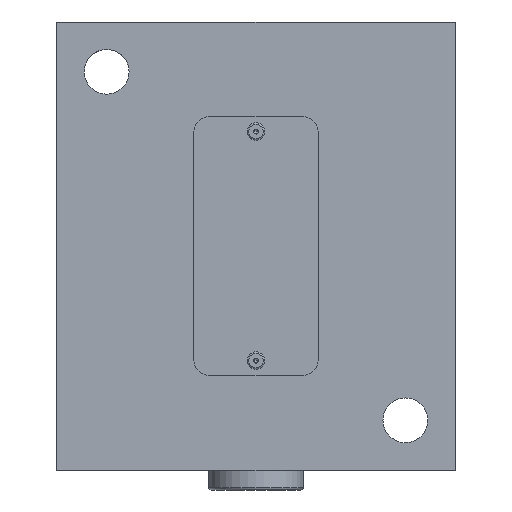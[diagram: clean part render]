
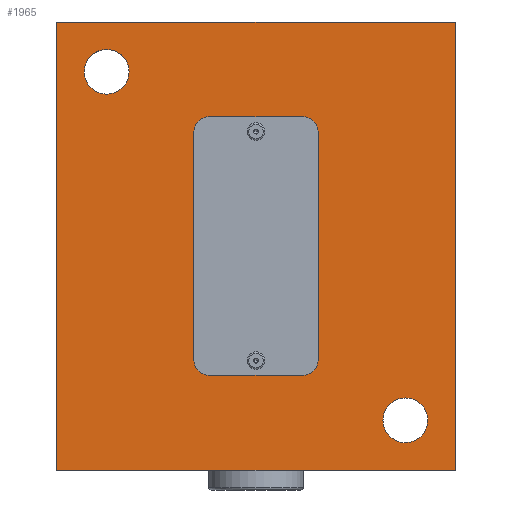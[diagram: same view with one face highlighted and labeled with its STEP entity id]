
A CAD part, front view. The second image highlights one B-rep face of the part: STEP entity #1965.
In plain terms, the highlighted planar face has unit normal (0, -1, 0).
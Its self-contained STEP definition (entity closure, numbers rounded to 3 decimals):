
#51=DIRECTION('',(1.,0.,0.));
#52=VECTOR('',#51,80.);
#53=CARTESIAN_POINT('',(-40.,-25.,0.));
#54=LINE('',#53,#52);
#95=DIRECTION('',(0.,0.,1.));
#96=VECTOR('',#95,90.);
#97=CARTESIAN_POINT('',(-40.,-25.,0.));
#98=LINE('',#97,#96);
#102=CARTESIAN_POINT('',(-30.,-25.,80.));
#103=DIRECTION('',(0.,-1.,0.));
#104=DIRECTION('',(1.,0.,0.));
#105=AXIS2_PLACEMENT_3D('',#102,#103,#104);
#110=CARTESIAN_POINT('',(-30.,-25.,80.));
#111=DIRECTION('',(0.,-1.,0.));
#112=DIRECTION('',(-1.,0.,0.));
#113=AXIS2_PLACEMENT_3D('',#110,#111,#112);
#118=CARTESIAN_POINT('',(30.,-25.,10.));
#119=DIRECTION('',(0.,-1.,0.));
#120=DIRECTION('',(1.,0.,0.));
#121=AXIS2_PLACEMENT_3D('',#118,#119,#120);
#126=CARTESIAN_POINT('',(30.,-25.,10.));
#127=DIRECTION('',(0.,-1.,0.));
#128=DIRECTION('',(-1.,0.,0.));
#129=AXIS2_PLACEMENT_3D('',#126,#127,#128);
#134=CARTESIAN_POINT('',(0.,-25.,68.));
#135=DIRECTION('',(0.,-1.,0.));
#136=DIRECTION('',(-1.,0.,0.));
#137=AXIS2_PLACEMENT_3D('',#134,#135,#136);
#142=CARTESIAN_POINT('',(0.,-25.,68.));
#143=DIRECTION('',(0.,-1.,0.));
#144=DIRECTION('',(1.,0.,0.));
#145=AXIS2_PLACEMENT_3D('',#142,#143,#144);
#150=CARTESIAN_POINT('',(0.,-25.,22.));
#151=DIRECTION('',(0.,-1.,0.));
#152=DIRECTION('',(-1.,0.,0.));
#153=AXIS2_PLACEMENT_3D('',#150,#151,#152);
#158=CARTESIAN_POINT('',(0.,-25.,22.));
#159=DIRECTION('',(0.,-1.,0.));
#160=DIRECTION('',(1.,0.,0.));
#161=AXIS2_PLACEMENT_3D('',#158,#159,#160);
#228=DIRECTION('',(0.,0.,1.));
#229=VECTOR('',#228,90.);
#230=CARTESIAN_POINT('',(40.,-25.,0.));
#231=LINE('',#230,#229);
#251=DIRECTION('',(1.,0.,0.));
#252=VECTOR('',#251,80.);
#253=CARTESIAN_POINT('',(-40.,-25.,90.));
#254=LINE('',#253,#252);
#1705=CARTESIAN_POINT('',(-40.,-25.,0.));
#1706=CARTESIAN_POINT('',(40.,-25.,0.));
#1707=VERTEX_POINT('',#1705);
#1708=VERTEX_POINT('',#1706);
#1713=CARTESIAN_POINT('',(-40.,-25.,90.));
#1714=CARTESIAN_POINT('',(40.,-25.,90.));
#1715=VERTEX_POINT('',#1713);
#1716=VERTEX_POINT('',#1714);
#1757=CARTESIAN_POINT('',(-25.5,-25.,80.));
#1758=CARTESIAN_POINT('',(-34.5,-25.,80.));
#1759=VERTEX_POINT('',#1757);
#1760=VERTEX_POINT('',#1758);
#1779=CARTESIAN_POINT('',(-1.,-25.,68.));
#1780=CARTESIAN_POINT('',(1.,-25.,68.));
#1781=VERTEX_POINT('',#1779);
#1782=VERTEX_POINT('',#1780);
#1789=CARTESIAN_POINT('',(-1.,-25.,22.));
#1790=CARTESIAN_POINT('',(1.,-25.,22.));
#1791=VERTEX_POINT('',#1789);
#1792=VERTEX_POINT('',#1790);
#1803=CARTESIAN_POINT('',(34.5,-25.,10.));
#1804=CARTESIAN_POINT('',(25.5,-25.,10.));
#1805=VERTEX_POINT('',#1803);
#1806=VERTEX_POINT('',#1804);
#1927=CARTESIAN_POINT('',(-40.,-25.,0.));
#1928=DIRECTION('',(0.,-1.,0.));
#1929=DIRECTION('',(1.,0.,0.));
#1930=AXIS2_PLACEMENT_3D('',#1927,#1928,#1929);
#1931=PLANE('',#1930);
#1932=ORIENTED_EDGE('',*,*,#1898,.F.);
#1934=ORIENTED_EDGE('',*,*,#1933,.T.);
#1936=ORIENTED_EDGE('',*,*,#1935,.T.);
#1938=ORIENTED_EDGE('',*,*,#1937,.F.);
#1939=EDGE_LOOP('',(#1932,#1934,#1936,#1938));
#1940=FACE_OUTER_BOUND('',#1939,.F.);
#1942=ORIENTED_EDGE('',*,*,#1941,.T.);
#1944=ORIENTED_EDGE('',*,*,#1943,.T.);
#1945=EDGE_LOOP('',(#1942,#1944));
#1946=FACE_BOUND('',#1945,.F.);
#1948=ORIENTED_EDGE('',*,*,#1947,.T.);
#1950=ORIENTED_EDGE('',*,*,#1949,.T.);
#1951=EDGE_LOOP('',(#1948,#1950));
#1952=FACE_BOUND('',#1951,.F.);
#1954=ORIENTED_EDGE('',*,*,#1953,.T.);
#1956=ORIENTED_EDGE('',*,*,#1955,.T.);
#1957=EDGE_LOOP('',(#1954,#1956));
#1958=FACE_BOUND('',#1957,.F.);
#1960=ORIENTED_EDGE('',*,*,#1959,.T.);
#1962=ORIENTED_EDGE('',*,*,#1961,.T.);
#1963=EDGE_LOOP('',(#1960,#1962));
#1964=FACE_BOUND('',#1963,.F.);
#106=CIRCLE('',#105,4.5);
#114=CIRCLE('',#113,4.5);
#122=CIRCLE('',#121,4.5);
#130=CIRCLE('',#129,4.5);
#138=CIRCLE('',#137,1.);
#146=CIRCLE('',#145,1.);
#154=CIRCLE('',#153,1.);
#162=CIRCLE('',#161,1.);
#1898=EDGE_CURVE('',#1707,#1708,#54,.T.);
#1933=EDGE_CURVE('',#1707,#1715,#98,.T.);
#1935=EDGE_CURVE('',#1715,#1716,#254,.T.);
#1937=EDGE_CURVE('',#1708,#1716,#231,.T.);
#1941=EDGE_CURVE('',#1759,#1760,#106,.T.);
#1943=EDGE_CURVE('',#1760,#1759,#114,.T.);
#1947=EDGE_CURVE('',#1805,#1806,#122,.T.);
#1949=EDGE_CURVE('',#1806,#1805,#130,.T.);
#1953=EDGE_CURVE('',#1781,#1782,#138,.T.);
#1955=EDGE_CURVE('',#1782,#1781,#146,.T.);
#1959=EDGE_CURVE('',#1791,#1792,#154,.T.);
#1961=EDGE_CURVE('',#1792,#1791,#162,.T.);
#1965=ADVANCED_FACE('',(#1940,#1946,#1952,#1958,#1964),#1931,.T.);
